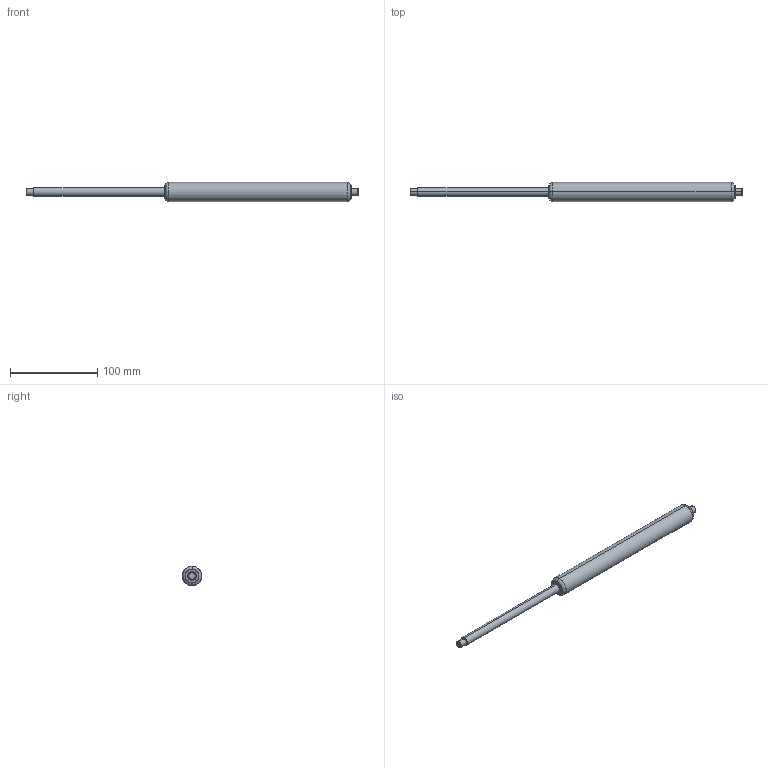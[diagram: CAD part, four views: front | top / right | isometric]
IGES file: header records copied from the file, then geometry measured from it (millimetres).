
Start section: SolidWorks IGES file using analytic representation for surfaces
Bounding box: 381 x 22 x 22 mm (x, y, z)
Surface area: 20426.9 mm2 (no closed solid volume)
Topology: 0 solids, 0 shells, 25 faces, 336 edges, 336 vertices
Faces by surface type: revolution 16, bspline 9
